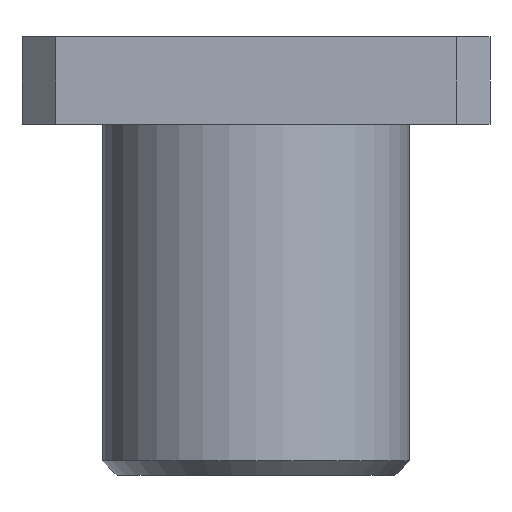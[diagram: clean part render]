
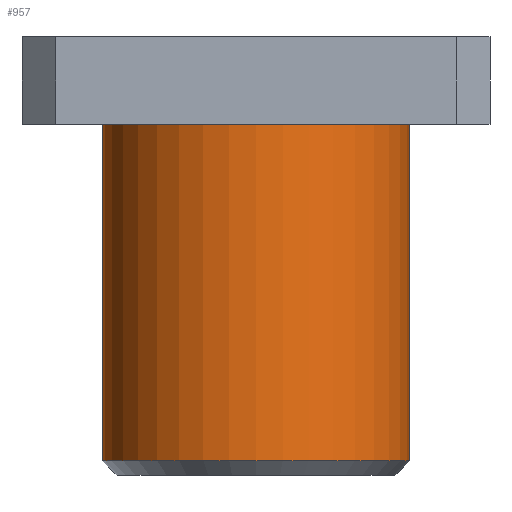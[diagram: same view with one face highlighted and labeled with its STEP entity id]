
A CAD part, front view. The second image highlights one B-rep face of the part: STEP entity #957.
In plain terms, the highlighted cylindrical face has radius 10.5 mm (diameter 21 mm), a partial arc.
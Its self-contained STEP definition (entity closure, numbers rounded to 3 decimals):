
#33 = CARTESIAN_POINT ( 'NONE',  ( 10.5, 0., 30. ) ) ;
#79 = VECTOR ( 'NONE', #397, 1000. ) ;
#92 = EDGE_CURVE ( 'NONE', #755, #547, #384, .T. ) ;
#131 = CYLINDRICAL_SURFACE ( 'NONE', #866, 10.5 ) ;
#194 = EDGE_LOOP ( 'NONE', ( #1174, #1052, #759, #496 ) ) ;
#253 = DIRECTION ( 'NONE',  ( 1., 0., 0. ) ) ;
#274 = DIRECTION ( 'NONE',  ( 0., 0., 1. ) ) ;
#298 = CIRCLE ( 'NONE', #784, 10.5 ) ;
#314 = FACE_OUTER_BOUND ( 'NONE', #194, .T. ) ;
#333 = EDGE_CURVE ( 'NONE', #672, #837, #808, .T. ) ;
#384 = LINE ( 'NONE', #33, #79 ) ;
#397 = DIRECTION ( 'NONE',  ( 0., 0., -1. ) ) ;
#402 = DIRECTION ( 'NONE',  ( -1., 0., 0. ) ) ;
#494 = DIRECTION ( 'NONE',  ( 0., 0., -1. ) ) ;
#496 = ORIENTED_EDGE ( 'NONE', *, *, #839, .T. ) ;
#498 = DIRECTION ( 'NONE',  ( -1., 0., 0. ) ) ;
#547 = VERTEX_POINT ( 'NONE', #653 ) ;
#584 = CARTESIAN_POINT ( 'NONE',  ( 0., 0., 30. ) ) ;
#613 = CIRCLE ( 'NONE', #1107, 10.5 ) ;
#653 = CARTESIAN_POINT ( 'NONE',  ( 10.5, 0., 1. ) ) ;
#672 = VERTEX_POINT ( 'NONE', #1056 ) ;
#699 = CARTESIAN_POINT ( 'NONE',  ( -10.5, 0., 30. ) ) ;
#755 = VERTEX_POINT ( 'NONE', #857 ) ;
#759 = ORIENTED_EDGE ( 'NONE', *, *, #333, .T. ) ;
#784 = AXIS2_PLACEMENT_3D ( 'NONE', #921, #494, #402 ) ;
#808 = LINE ( 'NONE', #699, #1105 ) ;
#837 = VERTEX_POINT ( 'NONE', #1079 ) ;
#839 = EDGE_CURVE ( 'NONE', #837, #547, #613, .T. ) ;
#857 = CARTESIAN_POINT ( 'NONE',  ( 10.5, 0., 24. ) ) ;
#866 = AXIS2_PLACEMENT_3D ( 'NONE', #584, #958, #498 ) ;
#892 = EDGE_CURVE ( 'NONE', #755, #672, #298, .T. ) ;
#896 = CARTESIAN_POINT ( 'NONE',  ( 0., 0., 1. ) ) ;
#921 = CARTESIAN_POINT ( 'NONE',  ( 0., 0., 24. ) ) ;
#957 = ADVANCED_FACE ( 'NONE', ( #314 ), #131, .T. ) ;
#958 = DIRECTION ( 'NONE',  ( 0., 0., -1. ) ) ;
#1052 = ORIENTED_EDGE ( 'NONE', *, *, #892, .T. ) ;
#1056 = CARTESIAN_POINT ( 'NONE',  ( -10.5, 0., 24. ) ) ;
#1079 = CARTESIAN_POINT ( 'NONE',  ( -10.5, 0., 1. ) ) ;
#1080 = DIRECTION ( 'NONE',  ( 0., 0., -1. ) ) ;
#1105 = VECTOR ( 'NONE', #1080, 1000. ) ;
#1107 = AXIS2_PLACEMENT_3D ( 'NONE', #896, #274, #253 ) ;
#1174 = ORIENTED_EDGE ( 'NONE', *, *, #92, .F. ) ;
